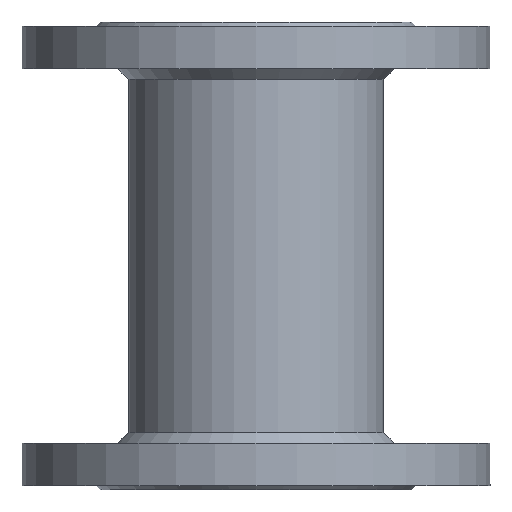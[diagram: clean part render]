
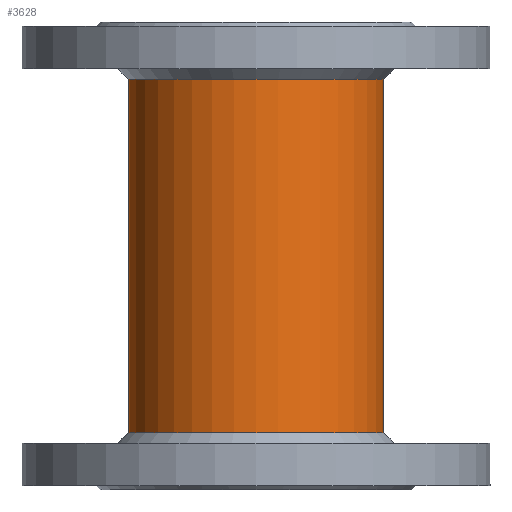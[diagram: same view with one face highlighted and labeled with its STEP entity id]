
A CAD part, front view. The second image highlights one B-rep face of the part: STEP entity #3628.
In plain terms, the highlighted cylindrical face has radius 60 mm (diameter 120 mm), a full revolution.
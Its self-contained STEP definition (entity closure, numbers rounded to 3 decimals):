
#2302=FACE_BOUND('',#5385,.T.);
#2303=FACE_BOUND('',#5386,.T.);
#2304=FACE_BOUND('',#5387,.T.);
#2512=CYLINDRICAL_SURFACE('',#15355,60.);
#2902=CIRCLE('',#15353,60.);
#2903=CIRCLE('',#15354,60.);
#3628=ADVANCED_FACE('',(#2302,#2303,#2304),#2512,.T.);
#5385=EDGE_LOOP('',(#9600));
#5386=EDGE_LOOP('',(#9601));
#5387=EDGE_LOOP('',(#9602,#9603,#9604,#9605));
#6111=B_SPLINE_CURVE_WITH_KNOTS('',3,(#31888,#31889,#31890,#31891,#31892,
#31893,#31894,#31895,#31896,#31897),.UNSPECIFIED.,.F.,.F.,(4,2,2,2,4),(0.,
0.25,0.5,0.75,1.),.UNSPECIFIED.);
#6112=B_SPLINE_CURVE_WITH_KNOTS('',3,(#31898,#31899,#31900,#31901,#31902,
#31903,#31904,#31905,#31906,#31907),.UNSPECIFIED.,.F.,.F.,(4,2,2,2,4),(0.,
0.25,0.5,0.75,1.),.UNSPECIFIED.);
#9600=ORIENTED_EDGE('',*,*,#12645,.T.);
#9601=ORIENTED_EDGE('',*,*,#12646,.T.);
#9602=ORIENTED_EDGE('',*,*,#12647,.T.);
#9603=ORIENTED_EDGE('',*,*,#12641,.F.);
#9604=ORIENTED_EDGE('',*,*,#12648,.T.);
#9605=ORIENTED_EDGE('',*,*,#12643,.F.);
#10860=VERTEX_POINT('',#31864);
#10861=VERTEX_POINT('',#31865);
#10862=VERTEX_POINT('',#31867);
#10863=VERTEX_POINT('',#31878);
#10865=VERTEX_POINT('',#31885);
#10866=VERTEX_POINT('',#31887);
#12641=EDGE_CURVE('',#10861,#10862,#13471,.T.);
#12643=EDGE_CURVE('',#10863,#10860,#13472,.T.);
#12645=EDGE_CURVE('',#10865,#10865,#2902,.T.);
#12646=EDGE_CURVE('',#10866,#10866,#2903,.T.);
#12647=EDGE_CURVE('',#10863,#10862,#6111,.T.);
#12648=EDGE_CURVE('',#10861,#10860,#6112,.T.);
#13471=LINE('',#31866,#14420);
#13472=LINE('',#31879,#14421);
#14420=VECTOR('',#18197,1.);
#14421=VECTOR('',#18198,1.);
#15353=AXIS2_PLACEMENT_3D('',#31884,#18205,#18206);
#15354=AXIS2_PLACEMENT_3D('',#31886,#18207,#18208);
#15355=AXIS2_PLACEMENT_3D('',#31908,#18209,#18210);
#18197=DIRECTION('',(0.,0.,1.));
#18198=DIRECTION('',(0.,0.,-1.));
#18205=DIRECTION('',(0.,0.,-1.));
#18206=DIRECTION('',(0.,-1.,0.));
#18207=DIRECTION('',(0.,0.,1.));
#18208=DIRECTION('',(0.,1.,0.));
#18209=DIRECTION('',(0.,0.,1.));
#18210=DIRECTION('',(0.,-1.,0.));
#31864=CARTESIAN_POINT('',(15.347,15.5,-5.898));
#31865=CARTESIAN_POINT('',(-15.378,15.5,-5.899));
#31866=CARTESIAN_POINT('',(-15.378,15.5,914.158));
#31867=CARTESIAN_POINT('',(-15.378,15.5,1.908));
#31878=CARTESIAN_POINT('',(15.347,15.5,1.902));
#31879=CARTESIAN_POINT('',(15.347,15.5,914.158));
#31884=CARTESIAN_POINT('',(-0.016,-42.5,100.758));
#31885=CARTESIAN_POINT('',(-0.016,-102.5,100.758));
#31886=CARTESIAN_POINT('',(-0.016,-42.5,-65.242));
#31887=CARTESIAN_POINT('',(-0.016,17.5,-65.242));
#31888=CARTESIAN_POINT('',(15.347,15.5,1.902));
#31889=CARTESIAN_POINT('',(14.438,15.741,5.257));
#31890=CARTESIAN_POINT('',(12.399,16.269,8.153));
#31891=CARTESIAN_POINT('',(6.85,17.172,12.25));
#31892=CARTESIAN_POINT('',(3.46,17.499,13.349));
#31893=CARTESIAN_POINT('',(-3.469,17.501,13.356));
#31894=CARTESIAN_POINT('',(-6.88,17.171,12.243));
#31895=CARTESIAN_POINT('',(-12.398,16.275,8.185));
#31896=CARTESIAN_POINT('',(-14.464,15.742,5.26));
#31897=CARTESIAN_POINT('',(-15.378,15.5,1.908));
#31898=CARTESIAN_POINT('',(-15.378,15.5,-5.899));
#31899=CARTESIAN_POINT('',(-14.469,15.741,-9.254));
#31900=CARTESIAN_POINT('',(-12.432,16.269,-12.152));
#31901=CARTESIAN_POINT('',(-6.879,17.173,-16.249));
#31902=CARTESIAN_POINT('',(-3.49,17.5,-17.352));
#31903=CARTESIAN_POINT('',(3.442,17.5,-17.353));
#31904=CARTESIAN_POINT('',(6.856,17.171,-16.243));
#31905=CARTESIAN_POINT('',(12.371,16.274,-12.177));
#31906=CARTESIAN_POINT('',(14.44,15.74,-9.252));
#31907=CARTESIAN_POINT('',(15.347,15.5,-5.898));
#31908=CARTESIAN_POINT('',(-0.016,-42.5,914.158));
